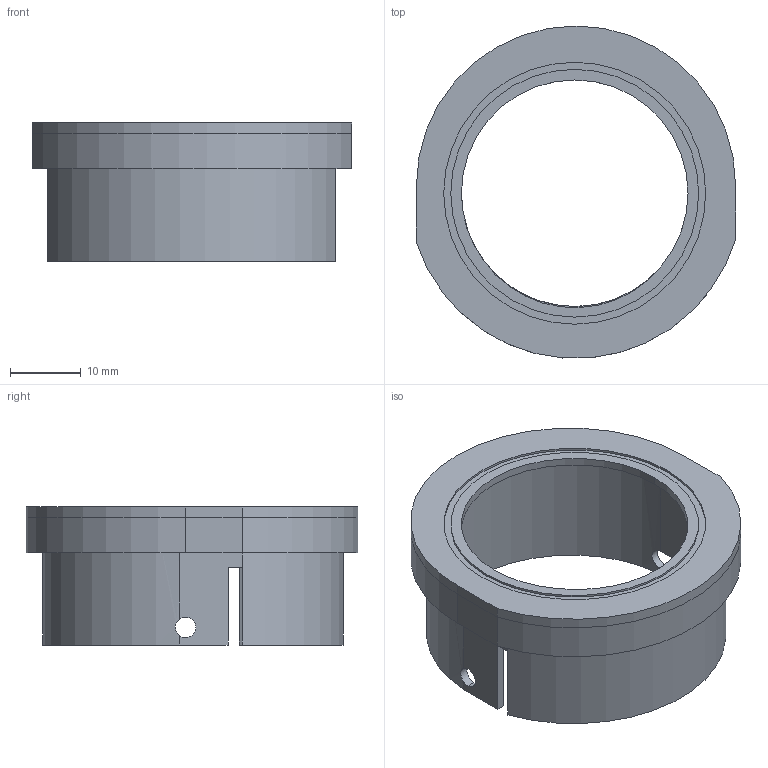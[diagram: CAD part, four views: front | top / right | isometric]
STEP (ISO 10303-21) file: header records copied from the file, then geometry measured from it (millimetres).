
FILE_DESCRIPTION(('Open CASCADE Model'),'2;1');
FILE_NAME('wide-adhesive-casting-mold.step','2026-11-14T14:29:31',( 'Author'),('Open CASCADE'),'Open CASCADE STEP processor 8.0', 'Open CASCADE 8.0','Unknown');
FILE_SCHEMA(('AP242_MANAGED_MODEL_BASED_3D_ENGINEERING_MIM_LF {1 0 10303 442 1 1 4 }' ));
Length unit declared in the file: millimetre
Products named in the file (1): Wide Adhesive Casting Mold
Bounding box: 45.08 x 46.88 x 19.5 mm (x, y, z)
Volume: 4320.5 mm3; surface area: 9134.5 mm2
Topology: 3 solids, 3 shells, 62 faces, 160 edges, 104 vertices
Faces by surface type: plane 35, cylinder 27
Entity records: 4493 total; most frequent: CARTESIAN_POINT 1237, DIRECTION 625, LINE 356, VECTOR 356, ORIENTED_EDGE 320, PCURVE 320, DEFINITIONAL_REPRESENTATION 320, EDGE_CURVE 160
